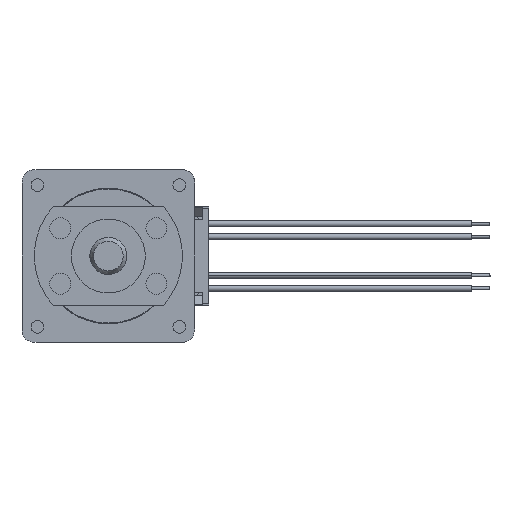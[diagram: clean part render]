
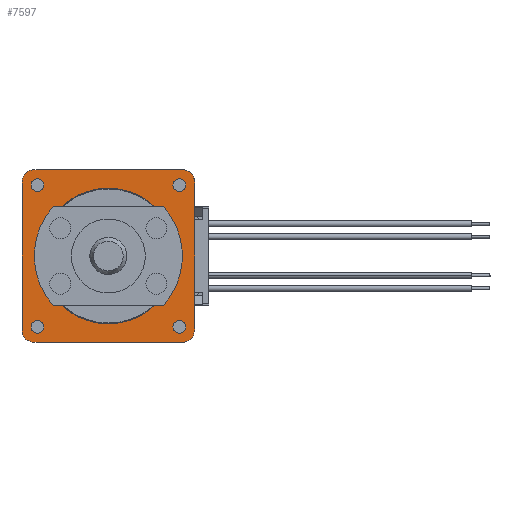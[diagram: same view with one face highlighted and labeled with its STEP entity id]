
A CAD part, left-side view. The second image highlights one B-rep face of the part: STEP entity #7597.
In plain terms, the highlighted planar face has unit normal (-1, 0, 0).
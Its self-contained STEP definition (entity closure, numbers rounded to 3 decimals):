
#6733=CARTESIAN_POINT('',(0.,-28.,-2.3));
#6734=VERTEX_POINT('',#6733);
#6741=CARTESIAN_POINT('',(0.,-28.,-25.7));
#6742=VERTEX_POINT('',#6741);
#6743=CARTESIAN_POINT('',(0.,-28.,-2.3));
#6744=DIRECTION('',(0.,0.,-1.));
#6745=VECTOR('',#6744,23.4);
#6746=LINE('',#6743,#6745);
#6747=EDGE_CURVE('',#6734,#6742,#6746,.T.);
#7463=CARTESIAN_POINT('',(0.,-25.7,0.));
#7464=VERTEX_POINT('',#7463);
#7465=CARTESIAN_POINT('',(0.,-25.7,0.));
#7466=CARTESIAN_POINT('',(0.,-28.,0.));
#7467=CARTESIAN_POINT('',(0.,-28.,-2.3));
#7468=B_SPLINE_CURVE_WITH_KNOTS('',2,(#7465,#7466,#7467),.UNSPECIFIED.,.F.,.U.,(3,3),(0.,1.),.UNSPECIFIED.);
#7469=EDGE_CURVE('',#7464,#6734,#7468,.T.);
#7487=CARTESIAN_POINT('',(0.,-14.,-14.));
#7488=DIRECTION('',(0.,-1.,0.));
#7489=DIRECTION('',(-1.,0.,0.));
#7490=AXIS2_PLACEMENT_3D('',#7487,#7489,#7488);
#7491=PLANE('',#7490);
#7492=ORIENTED_EDGE('',*,*,#6747,.F.);
#7493=ORIENTED_EDGE('',*,*,#7469,.F.);
#7494=CARTESIAN_POINT('',(0.,-2.3,0.));
#7495=VERTEX_POINT('',#7494);
#7496=CARTESIAN_POINT('',(0.,-25.7,0.));
#7497=DIRECTION('',(0.,1.,0.));
#7498=VECTOR('',#7497,23.4);
#7499=LINE('',#7496,#7498);
#7500=EDGE_CURVE('',#7464,#7495,#7499,.T.);
#7501=ORIENTED_EDGE('E690',*,*,#7500,.T.);
#7502=CARTESIAN_POINT('',(0.,0.,-2.3));
#7503=VERTEX_POINT('',#7502);
#7504=CARTESIAN_POINT('',(0.,-2.3,0.));
#7505=CARTESIAN_POINT('',(0.,0.,0.));
#7506=CARTESIAN_POINT('',(0.,0.,-2.3));
#7507=B_SPLINE_CURVE_WITH_KNOTS('',2,(#7504,#7505,#7506),.UNSPECIFIED.,.F.,.U.,(3,3),(0.,1.),.UNSPECIFIED.);
#7508=EDGE_CURVE('',#7495,#7503,#7507,.T.);
#7509=ORIENTED_EDGE('E691',*,*,#7508,.T.);
#7510=CARTESIAN_POINT('',(0.,0.,-25.7));
#7511=VERTEX_POINT('',#7510);
#7512=CARTESIAN_POINT('',(0.,0.,-2.3));
#7513=DIRECTION('',(0.,0.,-1.));
#7514=VECTOR('',#7513,23.4);
#7515=LINE('',#7512,#7514);
#7516=EDGE_CURVE('',#7503,#7511,#7515,.T.);
#7517=ORIENTED_EDGE('E692',*,*,#7516,.T.);
#7518=CARTESIAN_POINT('',(0.,-2.3,-28.));
#7519=VERTEX_POINT('',#7518);
#7520=CARTESIAN_POINT('',(0.,0.,-25.7));
#7521=CARTESIAN_POINT('',(0.,0.,-28.));
#7522=CARTESIAN_POINT('',(0.,-2.3,-28.));
#7523=B_SPLINE_CURVE_WITH_KNOTS('',2,(#7520,#7521,#7522),.UNSPECIFIED.,.F.,.U.,(3,3),(0.,1.),.UNSPECIFIED.);
#7524=EDGE_CURVE('',#7511,#7519,#7523,.T.);
#7525=ORIENTED_EDGE('E693',*,*,#7524,.T.);
#7526=CARTESIAN_POINT('',(0.,-25.7,-28.));
#7527=VERTEX_POINT('',#7526);
#7528=CARTESIAN_POINT('',(0.,-2.3,-28.));
#7529=DIRECTION('',(0.,-1.,0.));
#7530=VECTOR('',#7529,23.4);
#7531=LINE('',#7528,#7530);
#7532=EDGE_CURVE('',#7519,#7527,#7531,.T.);
#7533=ORIENTED_EDGE('E694',*,*,#7532,.T.);
#7534=CARTESIAN_POINT('',(0.,-25.7,-28.));
#7535=CARTESIAN_POINT('',(0.,-28.,-28.));
#7536=CARTESIAN_POINT('',(0.,-28.,-25.7));
#7537=B_SPLINE_CURVE_WITH_KNOTS('',2,(#7534,#7535,#7536),.UNSPECIFIED.,.F.,.U.,(3,3),(0.,1.),.UNSPECIFIED.);
#7538=EDGE_CURVE('',#7527,#6742,#7537,.T.);
#7539=ORIENTED_EDGE('E695',*,*,#7538,.T.);
#7540=EDGE_LOOP('',(#7492,#7493,#7501,#7509,#7517,#7525,#7533,#7539));
#7541=FACE_OUTER_BOUND('',#7540,.T.);
#7542=CARTESIAN_POINT('',(0.,-25.,-14.));
#7543=VERTEX_POINT('',#7542);
#7544=CARTESIAN_POINT('',(0.,-14.,-14.));
#7545=DIRECTION('',(0.,-1.,0.));
#7546=DIRECTION('',(1.,0.,0.));
#7547=AXIS2_PLACEMENT_3D('',#7544,#7546,#7545);
#7548=CIRCLE('',#7547,11.);
#7549=EDGE_CURVE('',#7543,#7543,#7548,.T.);
#7550=ORIENTED_EDGE('E696',*,*,#7549,.T.);
#7551=EDGE_LOOP('',(#7550));
#7552=FACE_BOUND('',#7551,.T.);
#7553=CARTESIAN_POINT('',(0.,-24.475,-25.5));
#7554=VERTEX_POINT('',#7553);
#7555=CARTESIAN_POINT('',(0.,-25.5,-25.5));
#7556=DIRECTION('',(0.,1.,0.));
#7557=DIRECTION('',(1.,0.,0.));
#7558=AXIS2_PLACEMENT_3D('',#7555,#7557,#7556);
#7559=CIRCLE('',#7558,1.025);
#7560=EDGE_CURVE('',#7554,#7554,#7559,.T.);
#7561=ORIENTED_EDGE('E697',*,*,#7560,.T.);
#7562=EDGE_LOOP('',(#7561));
#7563=FACE_BOUND('',#7562,.T.);
#7564=CARTESIAN_POINT('',(0.,-24.475,-2.5));
#7565=VERTEX_POINT('',#7564);
#7566=CARTESIAN_POINT('',(0.,-25.5,-2.5));
#7567=DIRECTION('',(0.,1.,0.));
#7568=DIRECTION('',(1.,0.,0.));
#7569=AXIS2_PLACEMENT_3D('',#7566,#7568,#7567);
#7570=CIRCLE('',#7569,1.025);
#7571=EDGE_CURVE('',#7565,#7565,#7570,.T.);
#7572=ORIENTED_EDGE('E698',*,*,#7571,.T.);
#7573=EDGE_LOOP('',(#7572));
#7574=FACE_BOUND('',#7573,.T.);
#7575=CARTESIAN_POINT('',(0.,-1.475,-25.5));
#7576=VERTEX_POINT('',#7575);
#7577=CARTESIAN_POINT('',(0.,-2.5,-25.5));
#7578=DIRECTION('',(0.,1.,0.));
#7579=DIRECTION('',(1.,0.,0.));
#7580=AXIS2_PLACEMENT_3D('',#7577,#7579,#7578);
#7581=CIRCLE('',#7580,1.025);
#7582=EDGE_CURVE('',#7576,#7576,#7581,.T.);
#7583=ORIENTED_EDGE('E699',*,*,#7582,.T.);
#7584=EDGE_LOOP('',(#7583));
#7585=FACE_BOUND('',#7584,.T.);
#7586=CARTESIAN_POINT('',(0.,-1.475,-2.5));
#7587=VERTEX_POINT('',#7586);
#7588=CARTESIAN_POINT('',(0.,-2.5,-2.5));
#7589=DIRECTION('',(0.,1.,0.));
#7590=DIRECTION('',(1.,0.,0.));
#7591=AXIS2_PLACEMENT_3D('',#7588,#7590,#7589);
#7592=CIRCLE('',#7591,1.025);
#7593=EDGE_CURVE('',#7587,#7587,#7592,.T.);
#7594=ORIENTED_EDGE('E700',*,*,#7593,.T.);
#7595=EDGE_LOOP('',(#7594));
#7596=FACE_BOUND('',#7595,.T.);
#7597=ADVANCED_FACE('F240',(#7541,#7552,#7563,#7574,#7585,#7596),#7491,.T.);
